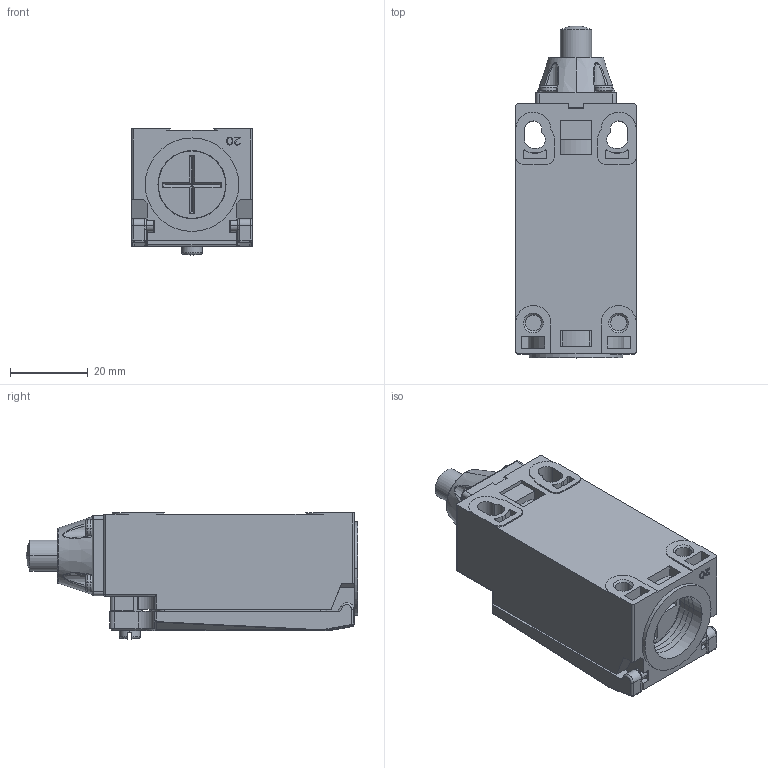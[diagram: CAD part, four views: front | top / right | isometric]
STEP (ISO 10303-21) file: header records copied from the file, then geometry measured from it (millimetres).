
FILE_DESCRIPTION(/* description */ (''),/* implementation_level */ '2;1');
FILE_NAME(/* name */ 'ALS3-P...A1.stp',/* time_stamp */ '2022-04-21T15:02:42+08:00',/* author */ (''),/* organization */ (''),/* preprocessor_version */ 'ST-DEVELOPER v16.7',/* originating_system */ 'SIEMENS PLM Software NX 12.0',/* authorisation */ '');
FILE_SCHEMA (('AUTOMOTIVE_DESIGN { 1 0 10303 214 3 1 1 1 }'));
Length unit declared in the file: millimetre
Products named in the file (8): ST25X6自攻螺丝; 金属圆柱形推杆; M3X9; 20210810COVER_BODY; 柱塞型头部基座; 基座; 尾塞; ALS3-P...A1_stp
Assembly tree (10 placements, depth 2):
  ALS3-P...A1_stp
    尾塞
    基座
    柱塞型头部基座
    20210810COVER_BODY
    M3X9
    金属圆柱形推杆
    ST25X6自攻螺丝  x4
Bounding box: 31 x 85.2 x 32.37 mm (x, y, z)
Volume: 25905 mm3; surface area: 26305.6 mm2
Topology: 10 solids, 10 shells, 1154 faces, 3096 edges, 1985 vertices
Faces by surface type: plane 611, cylinder 312, cone 92, torus 70, bspline 43, sphere 26
Entity records: 39681 total; most frequent: CARTESIAN_POINT 11284, ORIENTED_EDGE 5828, DIRECTION 5633, EDGE_CURVE 2914, AXIS2_PLACEMENT_3D 1943, VERTEX_POINT 1889, LINE 1747, VECTOR 1747
